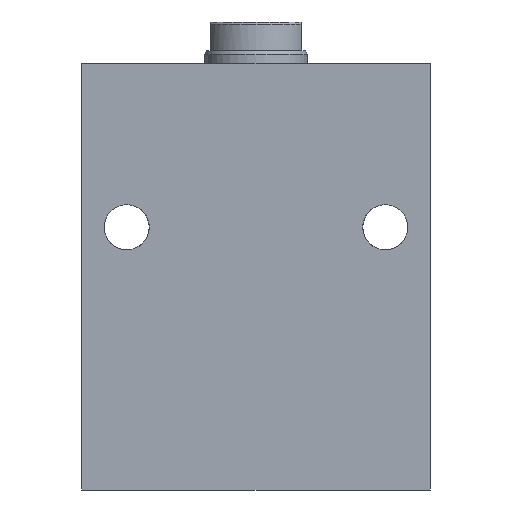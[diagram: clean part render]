
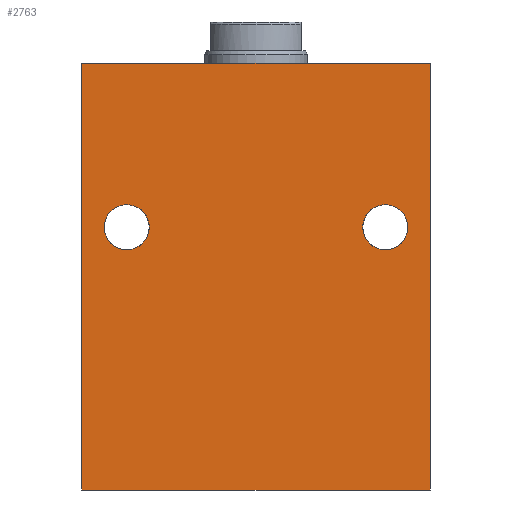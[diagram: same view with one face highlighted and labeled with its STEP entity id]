
A CAD part, front view. The second image highlights one B-rep face of the part: STEP entity #2763.
In plain terms, the highlighted planar face has unit normal (0, -1, 0).
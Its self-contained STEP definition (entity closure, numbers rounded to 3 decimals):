
#5 = AXIS2_PLACEMENT_3D ( 'NONE', #1283, #1282, #1278 ) ;
#140 = CIRCLE ( 'NONE', #5, 5.5 ) ;
#154 = CIRCLE ( 'NONE', #1451, 5.5 ) ;
#216 = VERTEX_POINT ( 'NONE', #391 ) ;
#225 = VERTEX_POINT ( 'NONE', #384 ) ;
#245 = VERTEX_POINT ( 'NONE', #349 ) ;
#246 = VERTEX_POINT ( 'NONE', #348 ) ;
#348 = CARTESIAN_POINT ( 'NONE',  ( 42.5, -31.5, 104. ) ) ;
#349 = CARTESIAN_POINT ( 'NONE',  ( -42.5, -31.5, 104. ) ) ;
#384 = CARTESIAN_POINT ( 'NONE',  ( -42.5, -31.5, 0. ) ) ;
#391 = CARTESIAN_POINT ( 'NONE',  ( 42.5, -31.5, 0. ) ) ;
#919 = VERTEX_POINT ( 'NONE', #1393 ) ;
#928 = VERTEX_POINT ( 'NONE', #1365 ) ;
#930 = VERTEX_POINT ( 'NONE', #1346 ) ;
#944 = VERTEX_POINT ( 'NONE', #1441 ) ;
#1061 = EDGE_LOOP ( 'NONE', ( #1214, #1213, #1212, #1211 ) ) ;
#1064 = EDGE_LOOP ( 'NONE', ( #1218, #1217 ) ) ;
#1077 = EDGE_LOOP ( 'NONE', ( #1216, #1215 ) ) ;
#1211 = ORIENTED_EDGE ( 'NONE', *, *, #1644, .T. ) ;
#1212 = ORIENTED_EDGE ( 'NONE', *, *, #1649, .F. ) ;
#1213 = ORIENTED_EDGE ( 'NONE', *, *, #1635, .F. ) ;
#1214 = ORIENTED_EDGE ( 'NONE', *, *, #1648, .T. ) ;
#1215 = ORIENTED_EDGE ( 'NONE', *, *, #1501, .T. ) ;
#1216 = ORIENTED_EDGE ( 'NONE', *, *, #1647, .T. ) ;
#1217 = ORIENTED_EDGE ( 'NONE', *, *, #1484, .T. ) ;
#1218 = ORIENTED_EDGE ( 'NONE', *, *, #1646, .T. ) ;
#1278 = DIRECTION ( 'NONE',  ( 0., 0., 1. ) ) ;
#1282 = DIRECTION ( 'NONE',  ( 0., 1., 0. ) ) ;
#1283 = CARTESIAN_POINT ( 'NONE',  ( 31.5, -31.5, 64. ) ) ;
#1309 = DIRECTION ( 'NONE',  ( 0., 0., 1. ) ) ;
#1311 = DIRECTION ( 'NONE',  ( 0., 1., 0. ) ) ;
#1312 = CARTESIAN_POINT ( 'NONE',  ( -31.5, -31.5, 64. ) ) ;
#1346 = CARTESIAN_POINT ( 'NONE',  ( -31.5, -31.5, 58.5 ) ) ;
#1365 = CARTESIAN_POINT ( 'NONE',  ( -31.5, -31.5, 69.5 ) ) ;
#1393 = CARTESIAN_POINT ( 'NONE',  ( 31.5, -31.5, 69.5 ) ) ;
#1441 = CARTESIAN_POINT ( 'NONE',  ( 31.5, -31.5, 58.5 ) ) ;
#1451 = AXIS2_PLACEMENT_3D ( 'NONE', #1312, #1311, #1309 ) ;
#1484 = EDGE_CURVE ( 'NONE', #930, #928, #154, .T. ) ;
#1501 = EDGE_CURVE ( 'NONE', #944, #919, #140, .T. ) ;
#1635 = EDGE_CURVE ( 'NONE', #246, #216, #2609, .T. ) ;
#1644 = EDGE_CURVE ( 'NONE', #245, #225, #2593, .T. ) ;
#1646 = EDGE_CURVE ( 'NONE', #928, #930, #2589, .T. ) ;
#1647 = EDGE_CURVE ( 'NONE', #919, #944, #2587, .T. ) ;
#1648 = EDGE_CURVE ( 'NONE', #225, #216, #2586, .T. ) ;
#1649 = EDGE_CURVE ( 'NONE', #245, #246, #2585, .T. ) ;
#1929 = DIRECTION ( 'NONE',  ( 0., 0., 1. ) ) ;
#1931 = PLANE ( 'NONE',  #2175 ) ;
#1932 = CARTESIAN_POINT ( 'NONE',  ( -42.5, -31.5, 104. ) ) ;
#1940 = DIRECTION ( 'NONE',  ( 0., 1., 0. ) ) ;
#1959 = DIRECTION ( 'NONE',  ( 1., 0., 0. ) ) ;
#1964 = CARTESIAN_POINT ( 'NONE',  ( -42.5, -31.5, 104. ) ) ;
#1966 = DIRECTION ( 'NONE',  ( 0., 1., 0. ) ) ;
#1969 = DIRECTION ( 'NONE',  ( 0., 0., 1. ) ) ;
#1970 = CARTESIAN_POINT ( 'NONE',  ( 31.5, -31.5, 64. ) ) ;
#1977 = DIRECTION ( 'NONE',  ( 0., 0., 1. ) ) ;
#1981 = DIRECTION ( 'NONE',  ( 0., 1., 0. ) ) ;
#1984 = CARTESIAN_POINT ( 'NONE',  ( -31.5, -31.5, 64. ) ) ;
#1986 = DIRECTION ( 'NONE',  ( 1., 0., 0. ) ) ;
#1991 = CARTESIAN_POINT ( 'NONE',  ( -42.5, -31.5, 0. ) ) ;
#1998 = DIRECTION ( 'NONE',  ( 0., 0., -1. ) ) ;
#2005 = CARTESIAN_POINT ( 'NONE',  ( -42.5, -31.5, 104. ) ) ;
#2090 = DIRECTION ( 'NONE',  ( 0., 0., -1. ) ) ;
#2091 = CARTESIAN_POINT ( 'NONE',  ( 42.5, -31.5, 104. ) ) ;
#2175 = AXIS2_PLACEMENT_3D ( 'NONE', #1932, #1940, #1929 ) ;
#2235 = AXIS2_PLACEMENT_3D ( 'NONE', #1970, #1966, #1969 ) ;
#2236 = AXIS2_PLACEMENT_3D ( 'NONE', #1984, #1981, #1977 ) ;
#2467 = FACE_BOUND ( 'NONE', #1077, .T. ) ;
#2470 = FACE_OUTER_BOUND ( 'NONE', #1061, .T. ) ;
#2471 = FACE_BOUND ( 'NONE', #1064, .T. ) ;
#2582 = VECTOR ( 'NONE', #1959, 1000. ) ;
#2584 = VECTOR ( 'NONE', #1986, 1000. ) ;
#2585 = LINE ( 'NONE', #1964, #2582 ) ;
#2586 = LINE ( 'NONE', #1991, #2584 ) ;
#2587 = CIRCLE ( 'NONE', #2235, 5.5 ) ;
#2589 = CIRCLE ( 'NONE', #2236, 5.5 ) ;
#2590 = VECTOR ( 'NONE', #1998, 1000. ) ;
#2593 = LINE ( 'NONE', #2005, #2590 ) ;
#2604 = VECTOR ( 'NONE', #2090, 1000. ) ;
#2609 = LINE ( 'NONE', #2091, #2604 ) ;
#2763 = ADVANCED_FACE ( 'NONE', ( #2471, #2467, #2470 ), #1931, .F. ) ;
